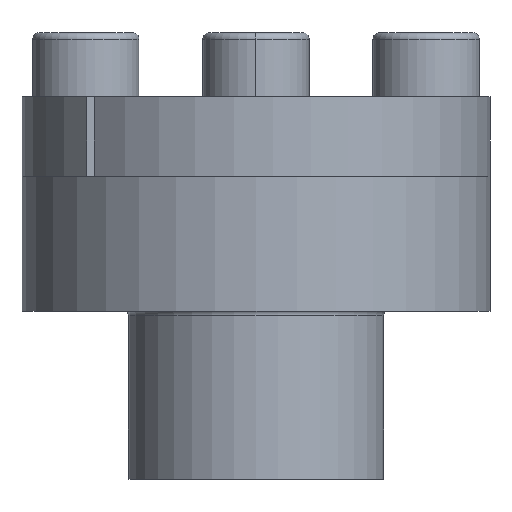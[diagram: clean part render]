
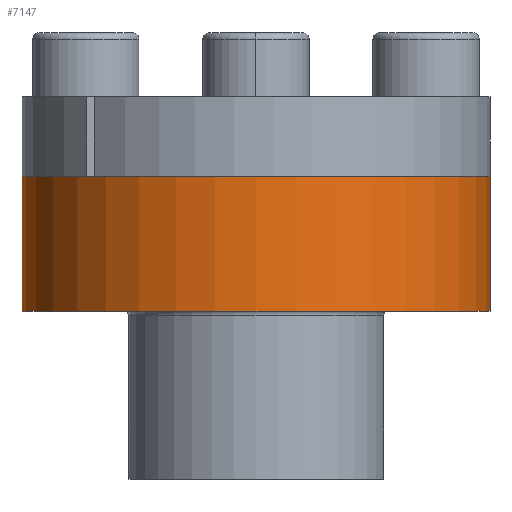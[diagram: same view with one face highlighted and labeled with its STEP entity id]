
A CAD part, front view. The second image highlights one B-rep face of the part: STEP entity #7147.
In plain terms, the highlighted cylindrical face has radius 22 mm (diameter 44 mm), a partial arc.
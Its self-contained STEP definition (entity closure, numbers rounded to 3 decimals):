
#37 = VECTOR ( 'NONE', #5571, 1000. ) ;
#283 = CARTESIAN_POINT ( 'NONE',  ( -22., 0., -9.223 ) ) ;
#286 = AXIS2_PLACEMENT_3D ( 'NONE', #380, #4428, #985 ) ;
#329 = EDGE_LOOP ( 'NONE', ( #3670, #3248, #2213, #2692 ) ) ;
#380 = CARTESIAN_POINT ( 'NONE',  ( 0., 0., -9.223 ) ) ;
#525 = VERTEX_POINT ( 'NONE', #2271 ) ;
#730 = CYLINDRICAL_SURFACE ( 'NONE', #7190, 22. ) ;
#985 = DIRECTION ( 'NONE',  ( 1., 0., 0. ) ) ;
#1424 = LINE ( 'NONE', #2137, #37 ) ;
#1478 = FACE_OUTER_BOUND ( 'NONE', #329, .T. ) ;
#1689 = CARTESIAN_POINT ( 'NONE',  ( 22., 0., -9.223 ) ) ;
#1914 = DIRECTION ( 'NONE',  ( 0., 0., -1. ) ) ;
#2137 = CARTESIAN_POINT ( 'NONE',  ( 22., 0., 3.477 ) ) ;
#2213 = ORIENTED_EDGE ( 'NONE', *, *, #2449, .T. ) ;
#2271 = CARTESIAN_POINT ( 'NONE',  ( 22., 0., 3.477 ) ) ;
#2350 = DIRECTION ( 'NONE',  ( 0., 0., 1. ) ) ;
#2449 = EDGE_CURVE ( 'NONE', #3611, #6374, #5781, .T. ) ;
#2636 = CARTESIAN_POINT ( 'NONE',  ( -22., 0., 3.477 ) ) ;
#2692 = ORIENTED_EDGE ( 'NONE', *, *, #3706, .T. ) ;
#2984 = AXIS2_PLACEMENT_3D ( 'NONE', #5785, #2350, #6337 ) ;
#2991 = VERTEX_POINT ( 'NONE', #1689 ) ;
#3074 = CARTESIAN_POINT ( 'NONE',  ( 0., 0., 3.477 ) ) ;
#3082 = EDGE_CURVE ( 'NONE', #3611, #525, #3236, .T. ) ;
#3127 = EDGE_CURVE ( 'NONE', #525, #2991, #1424, .T. ) ;
#3236 = CIRCLE ( 'NONE', #2984, 22. ) ;
#3248 = ORIENTED_EDGE ( 'NONE', *, *, #3082, .F. ) ;
#3416 = DIRECTION ( 'NONE',  ( 0., 0., -1. ) ) ;
#3611 = VERTEX_POINT ( 'NONE', #2636 ) ;
#3670 = ORIENTED_EDGE ( 'NONE', *, *, #3127, .F. ) ;
#3706 = EDGE_CURVE ( 'NONE', #6374, #2991, #5616, .T. ) ;
#3940 = CARTESIAN_POINT ( 'NONE',  ( -22., 0., 3.477 ) ) ;
#4238 = VECTOR ( 'NONE', #3416, 1000. ) ;
#4428 = DIRECTION ( 'NONE',  ( 0., 0., 1. ) ) ;
#5571 = DIRECTION ( 'NONE',  ( 0., 0., -1. ) ) ;
#5616 = CIRCLE ( 'NONE', #286, 22. ) ;
#5781 = LINE ( 'NONE', #3940, #4238 ) ;
#5785 = CARTESIAN_POINT ( 'NONE',  ( 0., 0., 3.477 ) ) ;
#6337 = DIRECTION ( 'NONE',  ( 1., 0., 0. ) ) ;
#6374 = VERTEX_POINT ( 'NONE', #283 ) ;
#6502 = DIRECTION ( 'NONE',  ( -1., 0., 0. ) ) ;
#7147 = ADVANCED_FACE ( 'NONE', ( #1478 ), #730, .T. ) ;
#7190 = AXIS2_PLACEMENT_3D ( 'NONE', #3074, #1914, #6502 ) ;
